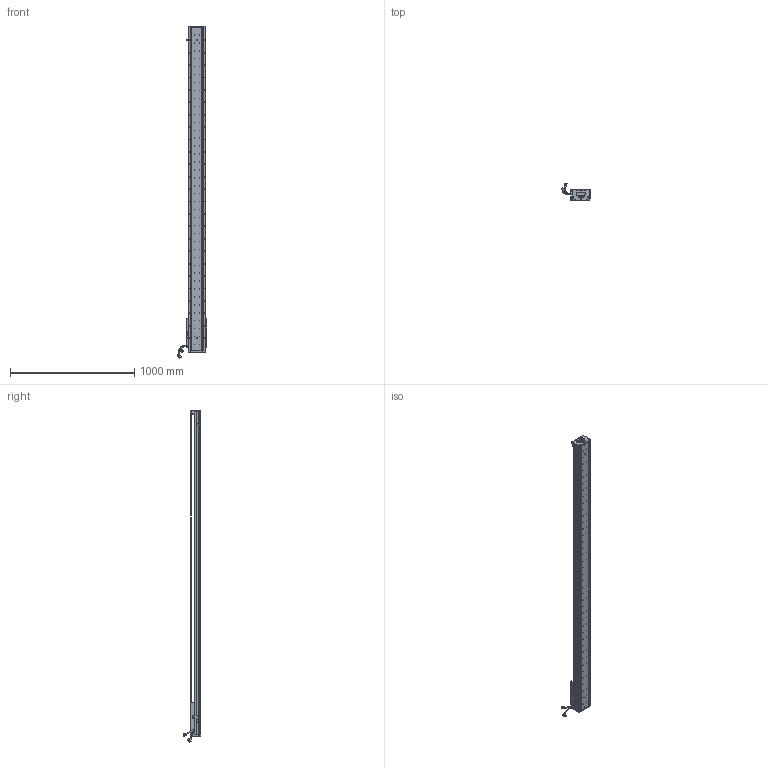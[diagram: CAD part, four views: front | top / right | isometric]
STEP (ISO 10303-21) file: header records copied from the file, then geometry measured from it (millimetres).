
FILE_DESCRIPTION (( 'STEP AP203' ), '1' );
FILE_NAME ('Z3-RY140D-1-L500-B-K.SLDASM_2300.step', '2021-05-17T08:04:36', ( '盈信电脑' ), ( '东莞市道滘镇水果街19号' ), 'SwSTEP 2.0', 'SolidWorks 2016', '' );
FILE_SCHEMA (( 'CONFIG_CONTROL_DESIGN' ));
Length unit declared in the file: millimetre
Products named in the file (36): Z3-RY140D-1-L500-B-K.SLDASM_2300; 140蚥薯蝶輸; 榋妏寠巭燃_暯_M2_2; SCALE-Part-2; SCREW-M1.7-1; 140-Z-臏賑輸盄裔(21遴); SHIELDPLATE; PSLH080_PSLF2; SCREW-M1.6-3; LABEL; COVER-Part-1; PBU_SHEET; SEAL-Part-1; SCREW-M1.6-2; SCALE; Z3-RY140-L500直线电机模组底座_2300; HARNESS; SCREW-M1.6-1; Z3-RY140-L500詩湍100mm遵_2300; Z-RY140感应器672光电感应片; Z-140詩湍傷裔啣; HOLDER0; SEAL; SCREW-M1.6; SCALE-Part-1; SCREW-M1.7; HARNESS-Part-2; LABEL-Part-1; Z3-RY140圉猾敕臏賑輸(21遴); Z-RY140詩湍狟揤裔; HARNESS-Part-1; COVER; 覜茼ん672; 140雄赽晤鎢ん堤盄; Z-RY140詩湍奻揤裔; 080黍杅芛假蚾釱21遴
Assembly tree (41 placements, depth 4):
  Z3-RY140D-1-L500-B-K.SLDASM_2300
    Z3-RY140-L500直线电机模组底座_2300
    Z-RY140感应器672光电感应片
    Z3-RY140圉猾敕臏賑輸(21遴)
    覜茼ん672  x3
    Z3-RY140-L500詩湍100mm遵_2300
    PSLH080_PSLF2
      SCALE
        SCALE-Part-1
        SCALE-Part-2
      HARNESS
        HARNESS-Part-1
        HARNESS-Part-2
      LABEL
        LABEL-Part-1
      COVER
        COVER-Part-1
      SEAL
        SEAL-Part-1
      榋妏寠巭燃_暯_M2_2
      SHIELDPLATE
      SCREW-M1.7
      SCREW-M1.7-1
      PBU_SHEET
      SCREW-M1.6
      SCREW-M1.6-1
      SCREW-M1.6-2
      SCREW-M1.6-3
      HOLDER0
    080黍杅芛假蚾釱21遴
    140-Z-臏賑輸盄裔(21遴)
    Z-140詩湍傷裔啣  x2
    Z-RY140詩湍狟揤裔  x2
    Z-RY140詩湍奻揤裔  x2
    140蚥薯蝶輸  x2
    140雄赽晤鎢ん堤盄
Bounding box: 239.79 x 143.88 x 2675.87 mm (x, y, z)
Volume: 8580762.1 mm3; surface area: 2233227.9 mm2
Topology: 36 solids, 36 shells, 4076 faces, 11072 edges, 7007 vertices
Faces by surface type: cylinder 2194, plane 1354, cone 406, torus 69, bspline 53
Entity records: 128844 total; most frequent: CARTESIAN_POINT 36183, ORIENTED_EDGE 19056, DIRECTION 17720, EDGE_CURVE 9528, AXIS2_PLACEMENT_3D 6592, VERTEX_POINT 6175, LINE 4536, VECTOR 4536
